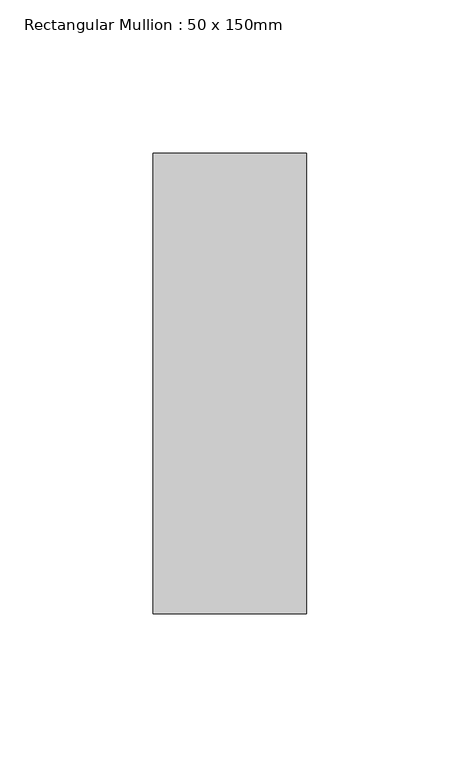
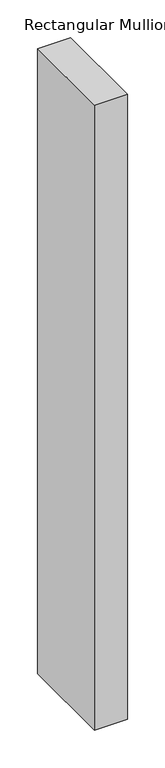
"""IFC4 building model written with IfcOpenShell, lengths in millimetres: member geometry, Rectangular Mullion : 50 x 150mm."""

from ifc_helpers import new_model, si_unit, frame, origin, place, context, project, spatial, polyline, outline, extrude, source, transform, mapped, element, save


def rectangular_mullion_50_x_150mm_ea958e3b(model_context):
    return source(origin(), model_context, "Body", "SweptSolid", [
        extrude(outline(polyline([(0.0, 75.0), (0.0, -75.0), (-50.0, -75.0), (-50.0, 75.0), (0.0, 75.0)])), frame((0.0, 0.0, -1006.25), z_axis=(0.0, 0.0, 1.0), x_axis=(1.0, 0.0, 0.0)), (0.0, 0.0, 1.0), 1006.25),
    ])


if __name__ == "__main__":
    model = new_model("IFC4")
    model_context = context("Model", 3, world=origin())
    ifc_project = project(units=[si_unit("LENGTHUNIT", "METRE", prefix="MILLI")], contexts=[model_context])
    site = spatial("IfcSite", under=ifc_project)
    building = spatial("IfcBuilding", under=site)
    placement = place(None, origin())
    rectangular_mullion_50_x_150mm_shape = rectangular_mullion_50_x_150mm_ea958e3b(model_context)
    element("IfcMember", 1, ObjectType="Rectangular Mullion : 50 x 150mm", at=placement, inside=building, context=model_context, shape_type="MappedRepresentation", body=[
        mapped(rectangular_mullion_50_x_150mm_shape, transform((0.0, 0.0, 0.0), x_axis=(1.0, 0.0, 0.0), y_axis=(0.0, 1.0, 0.0), z_axis=(0.0, 0.0, 1.0))),
    ])
    save(model, "model.ifc")
